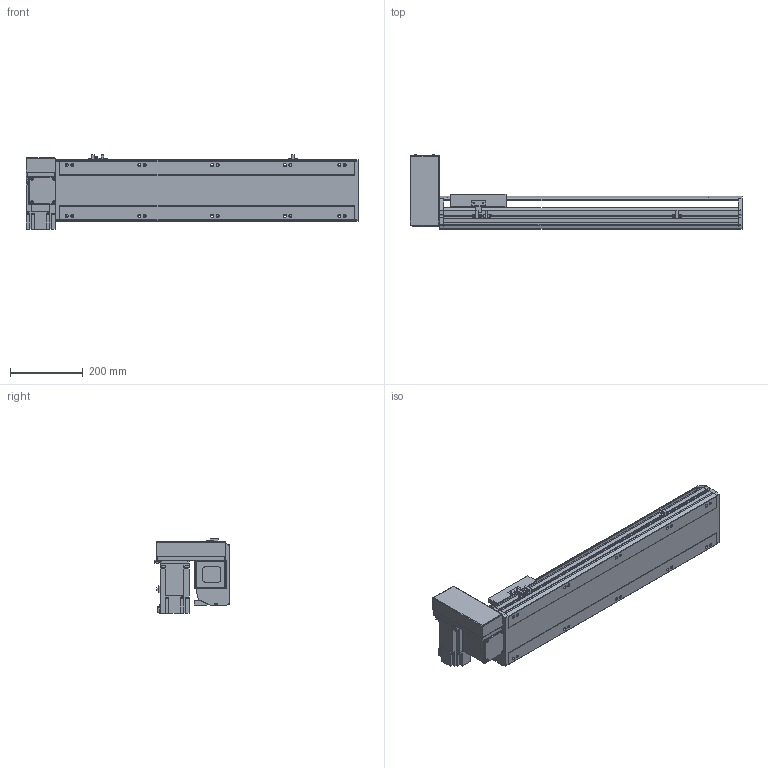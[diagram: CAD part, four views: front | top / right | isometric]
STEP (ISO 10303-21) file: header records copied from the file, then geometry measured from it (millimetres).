
FILE_DESCRIPTION( ( 'STEP AP214' ), '1' );
FILE_NAME( 'x:/temp/worker_5/temp/exporttempdir_3988_111_t5n9r/format_0/PBS170-P40-S550-RU-T75-C1-N(0).stp', '2022-06-08T05:56:02', ( 'License CC BY-ND 4.0' ), ( 'CADENAS' ), ' ', 'PARTsolutions', ' ' );
FILE_SCHEMA( ( 'AUTOMOTIVE_DESIGN { 1 0 10303 214 1 1 1 1 }' ) );
Length unit declared in the file: millimetre
Products named in the file (7): PBS170-P40-S550-RU-T75-C1-N(0); _PBS170-S550()_body; _PBS170T-RU_motors; _T75-p1; _PBS170_sliser; _PBS170_plant; _PBS170_sensor
Assembly tree (8 placements, depth 2):
  PBS170-P40-S550-RU-T75-C1-N(0)
    _PBS170-S550()_body
    _PBS170T-RU_motors
    _T75-p1
    _PBS170_sliser
    _PBS170_plant
    _PBS170_sensor  x3
Bounding box: 913 x 206 x 205.3 mm (x, y, z)
Volume: 7784619.9 mm3; surface area: 1053094.8 mm2
Topology: 8 solids, 8 shells, 1034 faces, 2755 edges, 1796 vertices
Faces by surface type: plane 669, cylinder 315, cone 40, sphere 8, torus 2
Full cylindrical faces by diameter (mm): 3.242 x4, 4 x2, 4.4 x4, 4.5 x6, 4.917 x4, 6 x9, 6.647 x18, 7 x2, 7.5 x4, 8 x8, 8.5 x10, 10 x4, 10.5 x10, 11 x2, 30 x2, 40 x1, 70 x1
Entity records: 37814 total; most frequent: CARTESIAN_POINT 5717, DIRECTION 5090, ORIENTED_EDGE 4848, EDGE_CURVE 2424, AXIS2_PLACEMENT_3D 1747, VERTEX_POINT 1658, LINE 1596, VECTOR 1596
